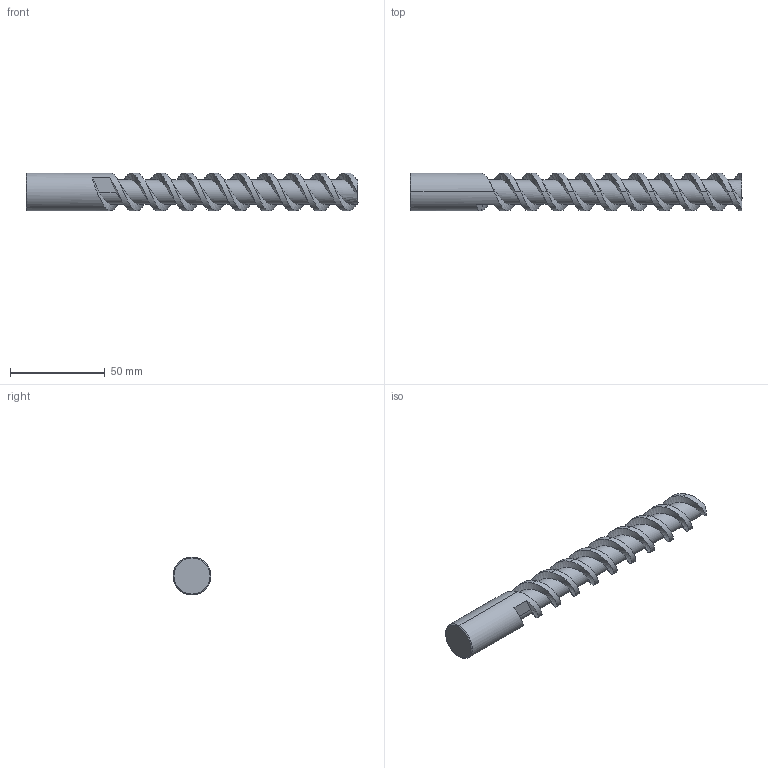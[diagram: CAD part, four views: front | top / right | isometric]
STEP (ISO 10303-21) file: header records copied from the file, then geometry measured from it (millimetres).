
FILE_DESCRIPTION (( 'STEP AP214' ), '1' );
FILE_NAME ('E2122_20_175.STEP', '2013-04-10T07:05:57', ( '' ), ( '' ), 'SwSTEP 2.0', 'SolidWorks 2013', '' );
FILE_SCHEMA (( 'AUTOMOTIVE_DESIGN' ));
Length unit declared in the file: millimetre
Products named in the file (1): E2122_20_175
Bounding box: 175 x 20 x 20 mm (x, y, z)
Volume: 37269 mm3; surface area: 12514.4 mm2
Topology: 1 solids, 1 shells, 36 faces, 96 edges, 62 vertices
Faces by surface type: cylinder 20, plane 8, bspline 6, cone 2
Entity records: 8299 total; most frequent: CARTESIAN_POINT 7152, ORIENTED_EDGE 192, DIRECTION 108, EDGE_CURVE 96, VERTEX_POINT 62, UNCERTAINTY_MEASURE_WITH_UNIT 39, PRESENTATION_STYLE_ASSIGNMENT 38, COLOUR_RGB 38
